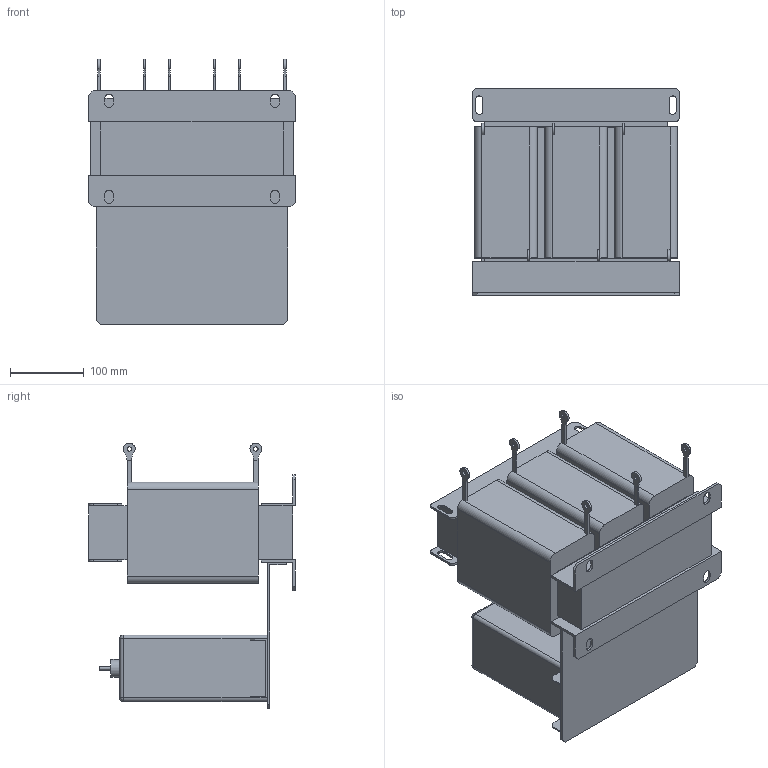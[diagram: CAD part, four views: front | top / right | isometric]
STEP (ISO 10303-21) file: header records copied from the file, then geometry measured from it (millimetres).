
FILE_DESCRIPTION(/* description */ (''),/* implementation_level */ '2;1');
FILE_NAME(/* name */ 'Sin-T6-050.stp',/* time_stamp */ '2025-03-05T16:25:46+04:00',/* author */ ('Лео'),/* organization */ (''),/* preprocessor_version */ 'ST-DEVELOPER v19.2',/* originating_system */ 'Autodesk Inventor 2024',/* authorisation */ '');
FILE_SCHEMA (('AUTOMOTIVE_DESIGN { 1 0 10303 214 3 1 1 }'));
Length unit declared in the file: millimetre
Products named in the file (1): Sin-T6-050
Bounding box: 280 x 280 x 360 mm (x, y, z)
Volume: 12074245.2 mm3; surface area: 880746.1 mm2
Topology: 25 solids, 25 shells, 258 faces, 606 edges, 398 vertices
Faces by surface type: plane 176, cylinder 78, sphere 4
Full cylindrical faces by diameter (mm): 5 x3, 6 x6, 24 x3
Entity records: 7445 total; most frequent: DIRECTION 1280, CARTESIAN_POINT 1263, ORIENTED_EDGE 1212, EDGE_CURVE 606, LINE 450, VECTOR 450, AXIS2_PLACEMENT_3D 415, VERTEX_POINT 398
